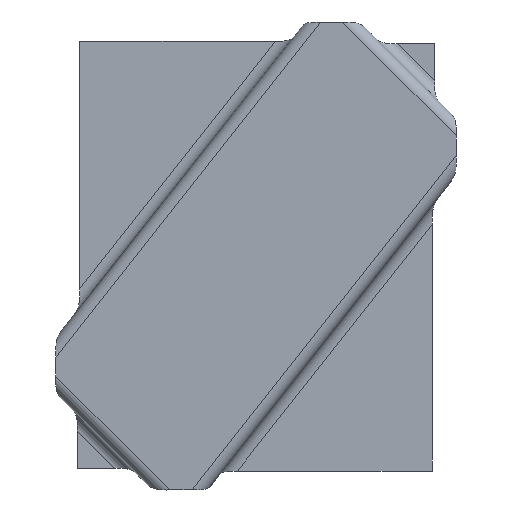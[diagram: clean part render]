
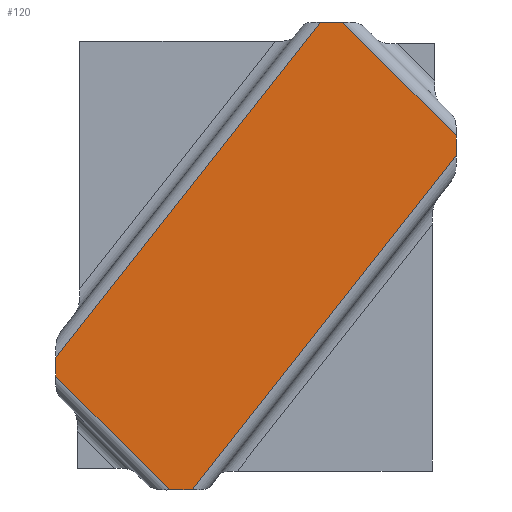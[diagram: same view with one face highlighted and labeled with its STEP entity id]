
A CAD part, top view. The second image highlights one B-rep face of the part: STEP entity #120.
In plain terms, the highlighted planar face has unit normal (0, 0, -1).
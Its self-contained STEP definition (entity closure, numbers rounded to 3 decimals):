
#53=CARTESIAN_POINT('Axis2P3D Location',(-50.92,40.219,65.388)) ;
#59=CARTESIAN_POINT('Control Point',(-50.92,79.681,65.388)) ;
#60=CARTESIAN_POINT('Control Point',(27.702,179.219,65.388)) ;
#61=CARTESIAN_POINT('Vertex',(-50.92,79.681,65.388)) ;
#63=CARTESIAN_POINT('Vertex',(27.702,179.219,65.388)) ;
#66=CARTESIAN_POINT('Line Origine',(8.58,179.219,65.388)) ;
#70=CARTESIAN_POINT('Vertex',(34.254,179.219,65.388)) ;
#74=CARTESIAN_POINT('Control Point',(34.254,179.219,65.388)) ;
#75=CARTESIAN_POINT('Control Point',(68.08,145.393,65.388)) ;
#76=CARTESIAN_POINT('Vertex',(68.08,145.393,65.388)) ;
#79=CARTESIAN_POINT('Line Origine',(68.08,109.719,65.388)) ;
#83=CARTESIAN_POINT('Vertex',(68.08,139.512,65.388)) ;
#87=CARTESIAN_POINT('Control Point',(68.08,139.512,65.388)) ;
#88=CARTESIAN_POINT('Control Point',(-10.347,40.219,65.388)) ;
#89=CARTESIAN_POINT('Vertex',(-10.347,40.219,65.388)) ;
#92=CARTESIAN_POINT('Line Origine',(8.58,40.219,65.388)) ;
#96=CARTESIAN_POINT('Vertex',(-17.094,40.219,65.388)) ;
#100=CARTESIAN_POINT('Control Point',(-50.92,74.045,65.388)) ;
#101=CARTESIAN_POINT('Control Point',(-17.094,40.219,65.388)) ;
#102=CARTESIAN_POINT('Vertex',(-50.92,74.045,65.388)) ;
#105=CARTESIAN_POINT('Line Origine',(-50.92,109.719,65.388)) ;
#54=DIRECTION('Axis2P3D Direction',(0.,0.,1.)) ;
#55=DIRECTION('Axis2P3D XDirection',(1.,0.,0.)) ;
#67=DIRECTION('Vector Direction',(1.,0.,0.)) ;
#80=DIRECTION('Vector Direction',(0.,1.,0.)) ;
#93=DIRECTION('Vector Direction',(1.,0.,0.)) ;
#106=DIRECTION('Vector Direction',(0.,1.,0.)) ;
#56=AXIS2_PLACEMENT_3D('Plane Axis2P3D',#53,#54,#55) ;
#111=ORIENTED_EDGE('',*,*,#65,.T.) ;
#112=ORIENTED_EDGE('',*,*,#72,.T.) ;
#113=ORIENTED_EDGE('',*,*,#78,.T.) ;
#114=ORIENTED_EDGE('',*,*,#85,.T.) ;
#115=ORIENTED_EDGE('',*,*,#91,.T.) ;
#116=ORIENTED_EDGE('',*,*,#98,.T.) ;
#117=ORIENTED_EDGE('',*,*,#104,.F.) ;
#118=ORIENTED_EDGE('',*,*,#109,.T.) ;
#68=VECTOR('Line Direction',#67,1.) ;
#81=VECTOR('Line Direction',#80,1.) ;
#94=VECTOR('Line Direction',#93,1.) ;
#107=VECTOR('Line Direction',#106,1.) ;
#120=ADVANCED_FACE('Offset.1',(#119),#57,.F.) ;
#58=B_SPLINE_CURVE_WITH_KNOTS('',1,(#59,#60),.UNSPECIFIED.,.F.,.U.,(2,2),(-63.422,63.422),.UNSPECIFIED.) ;
#73=B_SPLINE_CURVE_WITH_KNOTS('',1,(#74,#75),.UNSPECIFIED.,.F.,.U.,(2,2),(-23.919,23.919),.UNSPECIFIED.) ;
#86=B_SPLINE_CURVE_WITH_KNOTS('',1,(#87,#88),.UNSPECIFIED.,.F.,.U.,(2,2),(-63.265,63.265),.UNSPECIFIED.) ;
#99=B_SPLINE_CURVE_WITH_KNOTS('',1,(#100,#101),.UNSPECIFIED.,.F.,.U.,(2,2),(-23.919,23.919),.UNSPECIFIED.) ;
#65=EDGE_CURVE('',#62,#64,#58,.T.) ;
#72=EDGE_CURVE('',#64,#71,#69,.T.) ;
#78=EDGE_CURVE('',#71,#77,#73,.T.) ;
#85=EDGE_CURVE('',#77,#84,#82,.F.) ;
#91=EDGE_CURVE('',#84,#90,#86,.T.) ;
#98=EDGE_CURVE('',#90,#97,#95,.F.) ;
#104=EDGE_CURVE('',#103,#97,#99,.T.) ;
#109=EDGE_CURVE('',#103,#62,#108,.T.) ;
#110=EDGE_LOOP('',(#111,#112,#113,#114,#115,#116,#117,#118)) ;
#119=FACE_OUTER_BOUND('',#110,.T.) ;
#69=LINE('Line',#66,#68) ;
#82=LINE('Line',#79,#81) ;
#95=LINE('Line',#92,#94) ;
#108=LINE('Line',#105,#107) ;
#57=PLANE('',#56) ;
#62=VERTEX_POINT('',#61) ;
#64=VERTEX_POINT('',#63) ;
#71=VERTEX_POINT('',#70) ;
#77=VERTEX_POINT('',#76) ;
#84=VERTEX_POINT('',#83) ;
#90=VERTEX_POINT('',#89) ;
#97=VERTEX_POINT('',#96) ;
#103=VERTEX_POINT('',#102) ;
